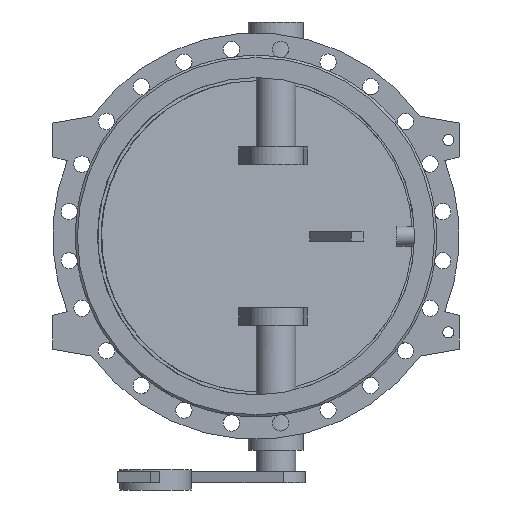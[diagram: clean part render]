
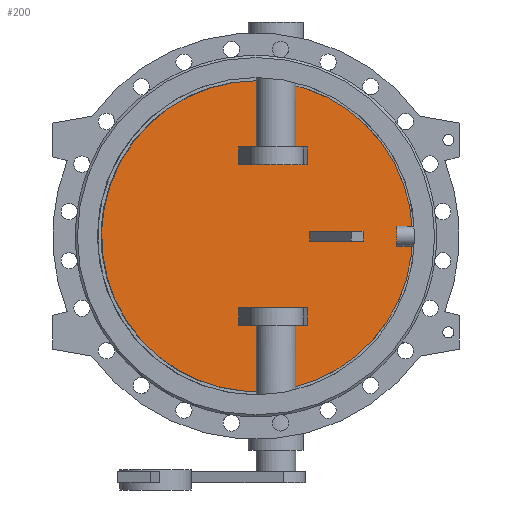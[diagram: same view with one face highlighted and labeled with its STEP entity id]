
A CAD part, front view. The second image highlights one B-rep face of the part: STEP entity #200.
In plain terms, the highlighted planar face has unit normal (0.131, -0.991, 0).
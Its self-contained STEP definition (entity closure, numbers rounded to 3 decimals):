
#200=ADVANCED_FACE('',(#1511,#1513,#1515,#1517),#1519,.T.);
#1511=FACE_BOUND('',#1512,.T.);
#1512=EDGE_LOOP('',(#2916));
#1513=FACE_BOUND('',#1514,.T.);
#1514=EDGE_LOOP('',(#2917,#2918,#2919,#2920));
#1515=FACE_BOUND('',#1516,.T.);
#1516=EDGE_LOOP('',(#2921,#2922,#2923,#2924));
#1517=FACE_BOUND('',#1518,.T.);
#1518=EDGE_LOOP('',(#2925,#2926,#2927,#2928));
#1519=PLANE('',#1520);
#1520=AXIS2_PLACEMENT_3D('',#1521,#1522,#1523);
#1521=CARTESIAN_POINT('',(-1.272,9.66,0.));
#1522=DIRECTION('',(0.131,-0.991,0.));
#1523=DIRECTION('',(0.,0.,-1.));
#2916=ORIENTED_EDGE('',*,*,#3692,.T.);
#2917=ORIENTED_EDGE('',*,*,#3792,.F.);
#2918=ORIENTED_EDGE('',*,*,#3793,.F.);
#2919=ORIENTED_EDGE('',*,*,#3794,.F.);
#2920=ORIENTED_EDGE('',*,*,#3795,.F.);
#2921=ORIENTED_EDGE('',*,*,#3796,.F.);
#2922=ORIENTED_EDGE('',*,*,#3797,.F.);
#2923=ORIENTED_EDGE('',*,*,#3798,.F.);
#2924=ORIENTED_EDGE('',*,*,#3799,.F.);
#2925=ORIENTED_EDGE('',*,*,#3800,.F.);
#2926=ORIENTED_EDGE('',*,*,#3801,.F.);
#2927=ORIENTED_EDGE('',*,*,#3802,.F.);
#2928=ORIENTED_EDGE('',*,*,#3803,.F.);
#3692=EDGE_CURVE('',#4163,#4163,#4164,.T.);
#3792=EDGE_CURVE('',#4363,#4364,#4365,.T.);
#3793=EDGE_CURVE('',#4366,#4363,#4367,.F.);
#3794=EDGE_CURVE('',#4368,#4366,#4369,.T.);
#3795=EDGE_CURVE('',#4364,#4368,#4370,.T.);
#3796=EDGE_CURVE('',#4371,#4372,#4373,.F.);
#3797=EDGE_CURVE('',#4374,#4371,#4375,.T.);
#3798=EDGE_CURVE('',#4376,#4374,#4377,.T.);
#3799=EDGE_CURVE('',#4372,#4376,#4378,.T.);
#3800=EDGE_CURVE('',#4379,#4380,#4381,.T.);
#3801=EDGE_CURVE('',#4382,#4379,#4383,.F.);
#3802=EDGE_CURVE('',#4384,#4382,#4385,.F.);
#3803=EDGE_CURVE('',#4380,#4384,#4386,.F.);
#4163=VERTEX_POINT('',#5556);
#4164=B_SPLINE_CURVE_WITH_KNOTS('',3,
(#5557,#5558,#5559,#5560,#5561,#5562,#5563,#5564,#5565,#5566,#5567,#5568,#5569,#5570,
#5571,#5572,#5573,#5574,#5575,#5576,#5577,#5578,#5579,#5580,#5581,#5582,#5583,#5584,
#5585,#5586,#5587,#5588,#5589,#5590,#5591,#5592,#5593,#5594,#5595,#5596,#5597,#5598,
#5599,#5600,#5601,#5602,#5603,#5604,#5605,#5606,#5607),
.UNSPECIFIED.,.T.,.F.,
(4,1,1,1,1,1,1,1,1,1,1,1,1,1,1,1,1,1,1,1,1,1,1,1,1,1,1,1,1,1,1,1,1,1,1,1,1,1,1,1,
1,1,1,1,1,1,1,1,4),
(0.,0.021,0.042,0.063,0.084,
0.105,0.126,0.147,0.168,0.189,
0.211,0.232,0.253,0.274,0.295,
0.316,0.337,0.358,0.379,0.4,
0.421,0.442,0.463,0.484,0.505,
0.527,0.548,0.569,0.59,0.611,
0.632,0.653,0.674,0.695,0.716,
0.737,0.758,0.779,0.8,0.821,
0.842,0.864,0.885,0.906,0.927,
0.948,0.969,0.986,1.),
.UNSPECIFIED.);
#4363=VERTEX_POINT('',#8522);
#4364=VERTEX_POINT('',#8523);
#4365=LINE('',#8524,#8525);
#4366=VERTEX_POINT('',#8527);
#4367=LINE('',#8528,#8529);
#4368=VERTEX_POINT('',#8531);
#4369=LINE('',#8532,#8533);
#4370=LINE('',#8535,#8536);
#4371=VERTEX_POINT('',#8538);
#4372=VERTEX_POINT('',#8539);
#4373=LINE('',#8540,#8541);
#4374=VERTEX_POINT('',#8543);
#4375=LINE('',#8544,#8545);
#4376=VERTEX_POINT('',#8547);
#4377=LINE('',#8548,#8549);
#4378=LINE('',#8551,#8552);
#4379=VERTEX_POINT('',#8554);
#4380=VERTEX_POINT('',#8555);
#4381=LINE('',#8556,#8557);
#4382=VERTEX_POINT('',#8559);
#4383=LINE('',#8560,#8561);
#4384=VERTEX_POINT('',#8563);
#4385=LINE('',#8564,#8565);
#4386=LINE('',#8567,#8568);
#5556=CARTESIAN_POINT('',(2.611,10.171,392.));
#5557=CARTESIAN_POINT('',(2.611,10.171,392.));
#5558=CARTESIAN_POINT('',(-14.616,7.903,392.));
#5559=CARTESIAN_POINT('',(-49.11,3.362,389.724));
#5560=CARTESIAN_POINT('',(-100.015,-3.34,379.519));
#5561=CARTESIAN_POINT('',(-149.198,-9.815,362.666));
#5562=CARTESIAN_POINT('',(-195.753,-15.944,339.455));
#5563=CARTESIAN_POINT('',(-238.826,-21.615,310.311));
#5564=CARTESIAN_POINT('',(-277.674,-26.729,275.739));
#5565=CARTESIAN_POINT('',(-311.615,-31.197,236.349));
#5566=CARTESIAN_POINT('',(-340.058,-34.942,192.829));
#5567=CARTESIAN_POINT('',(-362.508,-37.898,145.94));
#5568=CARTESIAN_POINT('',(-378.573,-40.013,96.504));
#5569=CARTESIAN_POINT('',(-387.975,-41.25,45.382));
#5570=CARTESIAN_POINT('',(-390.549,-41.589,-6.533));
#5571=CARTESIAN_POINT('',(-386.251,-41.023,-58.334));
#5572=CARTESIAN_POINT('',(-375.155,-39.563,-109.116));
#5573=CARTESIAN_POINT('',(-357.454,-37.232,-157.994));
#5574=CARTESIAN_POINT('',(-333.457,-34.073,-204.112));
#5575=CARTESIAN_POINT('',(-303.58,-30.14,-246.666));
#5576=CARTESIAN_POINT('',(-268.345,-25.501,-284.909));
#5577=CARTESIAN_POINT('',(-228.365,-20.237,-318.171));
#5578=CARTESIAN_POINT('',(-184.34,-14.441,-345.87));
#5579=CARTESIAN_POINT('',(-137.039,-8.214,-367.518));
#5580=CARTESIAN_POINT('',(-87.29,-1.665,-382.734));
#5581=CARTESIAN_POINT('',(-35.965,5.093,-391.251));
#5582=CARTESIAN_POINT('',(16.036,11.939,-392.918));
#5583=CARTESIAN_POINT('',(67.801,18.754,-387.706));
#5584=CARTESIAN_POINT('',(118.423,25.418,-375.708));
#5585=CARTESIAN_POINT('',(167.014,31.815,-357.135));
#5586=CARTESIAN_POINT('',(212.723,37.833,-332.314));
#5587=CARTESIAN_POINT('',(254.751,43.366,-301.681));
#5588=CARTESIAN_POINT('',(292.365,48.318,-265.774));
#5589=CARTESIAN_POINT('',(324.907,52.602,-225.222));
#5590=CARTESIAN_POINT('',(351.811,56.144,-180.735));
#5591=CARTESIAN_POINT('',(372.607,58.882,-133.092));
#5592=CARTESIAN_POINT('',(386.935,60.768,-83.125));
#5593=CARTESIAN_POINT('',(394.544,61.77,-31.706));
#5594=CARTESIAN_POINT('',(395.302,61.87,20.267));
#5595=CARTESIAN_POINT('',(389.195,61.066,71.886));
#5596=CARTESIAN_POINT('',(376.331,59.372,122.251));
#5597=CARTESIAN_POINT('',(356.932,56.818,170.481));
#5598=CARTESIAN_POINT('',(331.336,53.449,215.733));
#5599=CARTESIAN_POINT('',(299.989,49.322,257.217));
#5600=CARTESIAN_POINT('',(263.436,44.509,294.208));
#5601=CARTESIAN_POINT('',(222.326,39.097,326.045));
#5602=CARTESIAN_POINT('',(177.427,33.186,352.15));
#5603=CARTESIAN_POINT('',(129.39,26.862,372.154));
#5604=CARTESIAN_POINT('',(82.011,20.624,384.863));
#5605=CARTESIAN_POINT('',(39.415,15.016,390.9));
#5606=CARTESIAN_POINT('',(13.859,11.652,392.));
#5607=CARTESIAN_POINT('',(2.611,10.171,392.));
#8522=CARTESIAN_POINT('',(249.016,42.611,-12.5));
#8523=CARTESIAN_POINT('',(249.016,42.611,12.5));
#8524=CARTESIAN_POINT('',(249.016,42.611,-12.5));
#8525=VECTOR('',#8526,1.);
#8526=DIRECTION('',(0.,0.,1.));
#8527=CARTESIAN_POINT('',(135.,27.601,-12.5));
#8528=CARTESIAN_POINT('',(249.016,42.611,-12.5));
#8529=VECTOR('',#8530,1.);
#8530=DIRECTION('',(-0.991,-0.131,0.));
#8531=CARTESIAN_POINT('',(135.,27.601,12.5));
#8532=CARTESIAN_POINT('',(135.,27.601,12.5));
#8533=VECTOR('',#8534,1.);
#8534=DIRECTION('',(0.,0.,-1.));
#8535=CARTESIAN_POINT('',(249.016,42.611,12.5));
#8536=VECTOR('',#8537,1.);
#8537=DIRECTION('',(-0.991,-0.131,0.));
#8538=CARTESIAN_POINT('',(-44.007,4.034,-225.));
#8539=CARTESIAN_POINT('',(129.407,26.864,-225.));
#8540=CARTESIAN_POINT('',(129.407,26.864,-225.));
#8541=VECTOR('',#8542,1.);
#8542=DIRECTION('',(-0.991,-0.131,0.));
#8543=CARTESIAN_POINT('',(-44.007,4.034,-180.));
#8544=CARTESIAN_POINT('',(-44.007,4.034,-180.));
#8545=VECTOR('',#8546,1.);
#8546=DIRECTION('',(0.,0.,-1.));
#8547=CARTESIAN_POINT('',(129.407,26.864,-180.));
#8548=CARTESIAN_POINT('',(129.407,26.864,-180.));
#8549=VECTOR('',#8550,1.);
#8550=DIRECTION('',(-0.991,-0.131,0.));
#8551=CARTESIAN_POINT('',(129.407,26.864,-225.));
#8552=VECTOR('',#8553,1.);
#8553=DIRECTION('',(0.,0.,1.));
#8554=CARTESIAN_POINT('',(129.407,26.864,225.));
#8555=CARTESIAN_POINT('',(-44.007,4.034,225.));
#8556=CARTESIAN_POINT('',(129.407,26.864,225.));
#8557=VECTOR('',#8558,1.);
#8558=DIRECTION('',(-0.991,-0.131,0.));
#8559=CARTESIAN_POINT('',(129.407,26.864,180.));
#8560=CARTESIAN_POINT('',(129.407,26.864,225.));
#8561=VECTOR('',#8562,1.);
#8562=DIRECTION('',(0.,0.,-1.));
#8563=CARTESIAN_POINT('',(-44.007,4.034,180.));
#8564=CARTESIAN_POINT('',(129.407,26.864,180.));
#8565=VECTOR('',#8566,1.);
#8566=DIRECTION('',(-0.991,-0.131,0.));
#8567=CARTESIAN_POINT('',(-44.007,4.034,180.));
#8568=VECTOR('',#8569,1.);
#8569=DIRECTION('',(0.,0.,1.));
